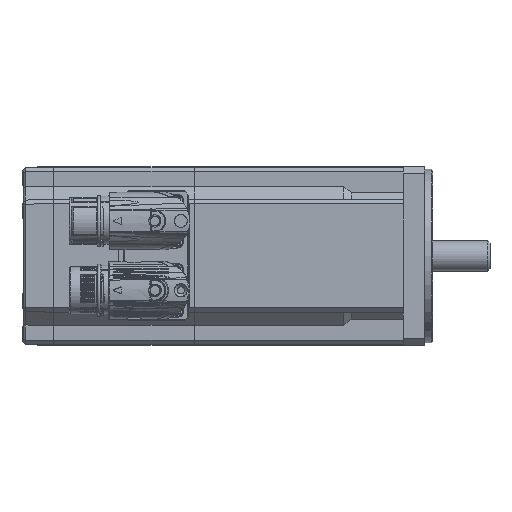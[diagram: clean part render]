
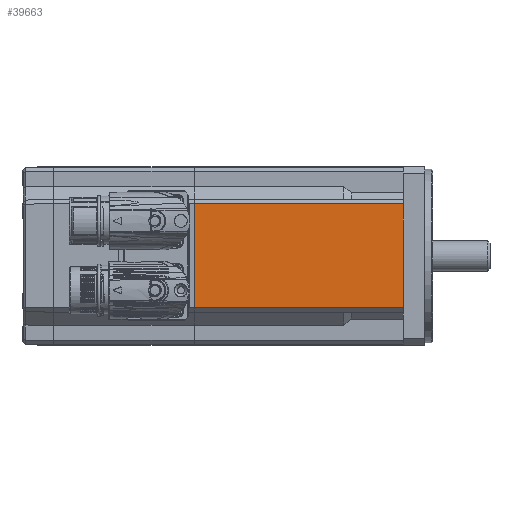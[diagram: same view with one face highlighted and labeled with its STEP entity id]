
A CAD part, top view. The second image highlights one B-rep face of the part: STEP entity #39663.
In plain terms, the highlighted planar face has unit normal (0, 0, 1).
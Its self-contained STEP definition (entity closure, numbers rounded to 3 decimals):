
#4756=LINE('',#117280,#6641);
#4928=LINE('',#117651,#6813);
#4929=LINE('',#117654,#6814);
#4930=LINE('',#117655,#6815);
#6641=VECTOR('',#53045,48.);
#6813=VECTOR('',#53357,96.5);
#6814=VECTOR('',#53360,96.5);
#6815=VECTOR('',#53361,48.);
#7607=PLANE('',#43740);
#10145=FACE_OUTER_BOUND('',#12694,.T.);
#12694=EDGE_LOOP('',(#34190,#34191,#34192,#34193));
#17956=VERTEX_POINT('',#117276);
#17958=VERTEX_POINT('',#117279);
#18087=VERTEX_POINT('',#117649);
#18088=VERTEX_POINT('',#117653);
#23322=EDGE_CURVE('',#17956,#17958,#4756,.T.);
#23507=EDGE_CURVE('',#17958,#18087,#4928,.T.);
#23508=EDGE_CURVE('',#18088,#17956,#4929,.T.);
#23509=EDGE_CURVE('',#18088,#18087,#4930,.T.);
#34190=ORIENTED_EDGE('',*,*,#23507,.F.);
#34191=ORIENTED_EDGE('',*,*,#23322,.F.);
#34192=ORIENTED_EDGE('',*,*,#23508,.F.);
#34193=ORIENTED_EDGE('',*,*,#23509,.T.);
#39663=ADVANCED_FACE('',(#10145),#7607,.T.);
#43740=AXIS2_PLACEMENT_3D('',#117652,#53358,#53359);
#53045=DIRECTION('',(0.,1.,0.));
#53357=DIRECTION('',(1.,0.,0.));
#53358=DIRECTION('center_axis',(0.,0.,
1.));
#53359=DIRECTION('ref_axis',(-1.,0.,0.));
#53360=DIRECTION('',(-1.,0.,0.));
#53361=DIRECTION('',(0.,1.,0.));
#117276=CARTESIAN_POINT('',(-10.198,-23.556,41.));
#117279=CARTESIAN_POINT('',(-10.198,24.444,41.));
#117280=CARTESIAN_POINT('',(-10.198,-25.556,41.));
#117649=CARTESIAN_POINT('',(86.302,24.444,41.));
#117651=CARTESIAN_POINT('',(-11.698,24.444,41.));
#117652=CARTESIAN_POINT('Origin',(-11.698,-25.556,41.));
#117653=CARTESIAN_POINT('',(86.302,-23.556,41.));
#117654=CARTESIAN_POINT('',(-11.698,-23.556,41.));
#117655=CARTESIAN_POINT('',(86.302,-25.556,41.));
